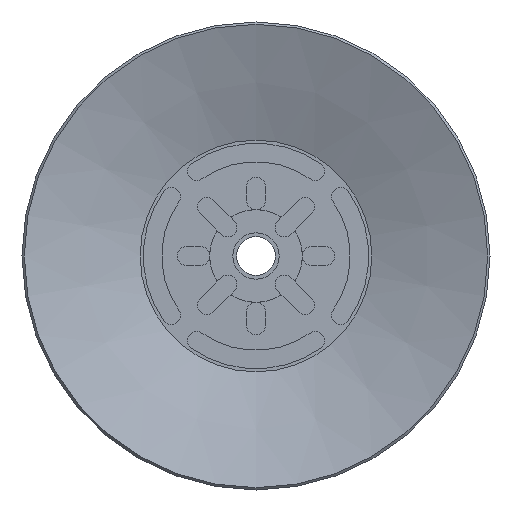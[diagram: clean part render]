
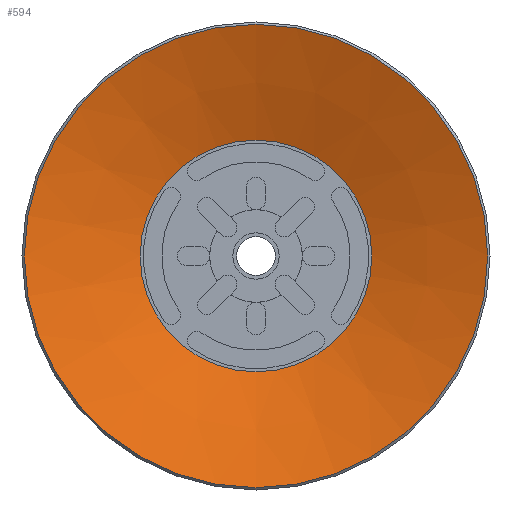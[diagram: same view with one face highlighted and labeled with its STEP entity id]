
A CAD part, front view. The second image highlights one B-rep face of the part: STEP entity #594.
In plain terms, the highlighted conical face has half-angle 70.201 degrees and reference radius 7.5 mm.
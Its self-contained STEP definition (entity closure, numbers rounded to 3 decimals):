
#594=ADVANCED_FACE('',(#998,#999),#1000,.F.);
#998=FACE_BOUND('',#1703,.T.);
#999=FACE_OUTER_BOUND('',#1704,.T.);
#1000=CONICAL_SURFACE('',#1705,7.5,1.225);
#1703=EDGE_LOOP('',(#2781));
#1704=EDGE_LOOP('',(#2782));
#1705=AXIS2_PLACEMENT_3D('',#2783,#2784,#2785);
#2781=ORIENTED_EDGE('',*,*,#3623,.F.);
#2782=ORIENTED_EDGE('',*,*,#3624,.T.);
#2783=CARTESIAN_POINT('',(0.0,0.0,2.7));
#2784=DIRECTION('',(0.0,0.,-1.0));
#2785=DIRECTION('',(0.0,1.0,0.));
#3623=EDGE_CURVE('',#4262,#4262,#4263,.T.);
#3624=EDGE_CURVE('',#4264,#4264,#4265,.T.);
#4262=VERTEX_POINT('',#5716);
#4263=CIRCLE('',#5717,7.5);
#4264=VERTEX_POINT('',#5718);
#4265=CIRCLE('',#5719,15.0);
#5716=CARTESIAN_POINT('',(0.0,7.5,2.7));
#5717=AXIS2_PLACEMENT_3D('',#6459,#6460,#6461);
#5718=CARTESIAN_POINT('',(0.0,15.0,0.));
#5719=AXIS2_PLACEMENT_3D('',#6462,#6463,#6464);
#6459=CARTESIAN_POINT('',(0.0,0.0,2.7));
#6460=DIRECTION('',(0.0,0.,-1.0));
#6461=DIRECTION('',(0.0,1.0,0.));
#6462=CARTESIAN_POINT('',(0.0,0.0,0.0));
#6463=DIRECTION('',(0.0,0.,-1.0));
#6464=DIRECTION('',(0.0,1.0,0.));
